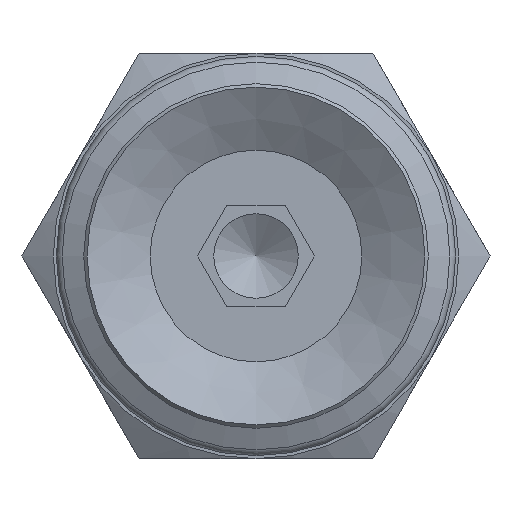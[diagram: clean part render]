
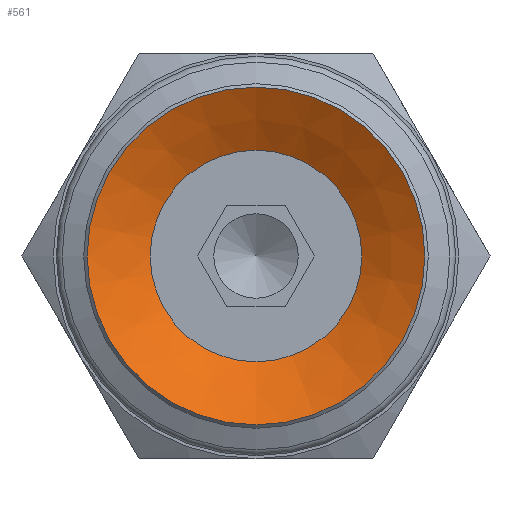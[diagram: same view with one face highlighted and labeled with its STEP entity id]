
A CAD part, front view. The second image highlights one B-rep face of the part: STEP entity #561.
In plain terms, the highlighted conical face has half-angle 60 degrees and reference radius 3.133 mm.
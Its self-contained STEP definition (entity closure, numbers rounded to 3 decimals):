
#561=ADVANCED_FACE('',(#832,#833),#834,.F.);
#832=FACE_BOUND('',#1142,.T.);
#833=FACE_OUTER_BOUND('',#1143,.T.);
#834=CONICAL_SURFACE('',#1144,3.133,1.047);
#1142=EDGE_LOOP('',(#1939));
#1143=EDGE_LOOP('',(#1940));
#1144=AXIS2_PLACEMENT_3D('',#1941,#1942,#1943);
#1939=ORIENTED_EDGE('',*,*,#2249,.F.);
#1940=ORIENTED_EDGE('',*,*,#2250,.T.);
#1941=CARTESIAN_POINT('',(0.0,7.659,0.));
#1942=DIRECTION('',(-0.0,-1.0,0.));
#1943=DIRECTION('',(0.0,0.,-1.0));
#2249=EDGE_CURVE('',#2619,#2619,#2620,.T.);
#2250=EDGE_CURVE('',#2621,#2621,#2622,.T.);
#2619=VERTEX_POINT('',#3589);
#2620=CIRCLE('',#3590,3.133);
#2621=VERTEX_POINT('',#3591);
#2622=CIRCLE('',#3592,5.0);
#3589=CARTESIAN_POINT('',(0.0,7.659,-3.133));
#3590=AXIS2_PLACEMENT_3D('',#3912,#3913,#3914);
#3591=CARTESIAN_POINT('',(0.0,6.581,-5.0));
#3592=AXIS2_PLACEMENT_3D('',#3915,#3916,#3917);
#3912=CARTESIAN_POINT('',(0.0,7.659,0.));
#3913=DIRECTION('',(0.0,-1.0,0.));
#3914=DIRECTION('',(0.0,0.,-1.0));
#3915=CARTESIAN_POINT('',(0.0,6.581,0.0));
#3916=DIRECTION('',(0.0,-1.0,0.));
#3917=DIRECTION('',(0.0,0.,-1.0));
